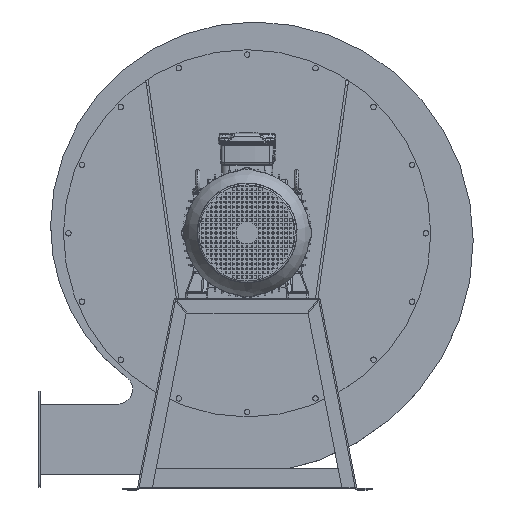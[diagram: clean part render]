
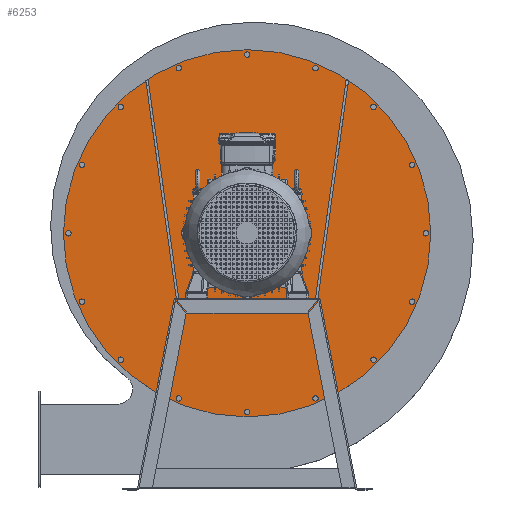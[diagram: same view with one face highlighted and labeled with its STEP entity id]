
A CAD part, top view. The second image highlights one B-rep face of the part: STEP entity #6253.
In plain terms, the highlighted planar face has unit normal (0, 0, 1).
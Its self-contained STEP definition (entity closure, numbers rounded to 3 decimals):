
#5695=CARTESIAN_POINT('',(-413.494,1633.453,4.0));
#5696=VERTEX_POINT('',#5695);
#5697=CARTESIAN_POINT('',(-453.494,1633.453,4.0));
#5698=DIRECTION('',(0.0,0.0,-1.0));
#5699=DIRECTION('',(-1.0,0.0,0.0));
#5700=AXIS2_PLACEMENT_3D('',#5697,#5698,#5699);
#5701=CIRCLE('',#5700,40.0);
#5702=EDGE_CURVE('',#5696,#5696,#5701,.T.);
#5723=CARTESIAN_POINT('',(-192.022,1889.425,4.0));
#5724=VERTEX_POINT('',#5723);
#5725=CARTESIAN_POINT('',(-197.522,1889.425,4.0));
#5726=DIRECTION('',(0.0,0.0,-1.0));
#5727=DIRECTION('',(-1.0,0.0,0.0));
#5728=AXIS2_PLACEMENT_3D('',#5725,#5726,#5727);
#5729=CIRCLE('',#5728,5.5);
#5730=EDGE_CURVE('',#5724,#5724,#5729,.T.);
#5751=CARTESIAN_POINT('',(-85.994,1633.453,4.0));
#5752=VERTEX_POINT('',#5751);
#5753=CARTESIAN_POINT('',(-91.494,1633.453,4.0));
#5754=DIRECTION('',(0.0,0.0,-1.0));
#5755=DIRECTION('',(-1.0,0.0,0.0));
#5756=AXIS2_PLACEMENT_3D('',#5753,#5754,#5755);
#5757=CIRCLE('',#5756,5.5);
#5758=EDGE_CURVE('',#5752,#5752,#5757,.T.);
#5779=CARTESIAN_POINT('',(-192.022,1377.48,4.0));
#5780=VERTEX_POINT('',#5779);
#5781=CARTESIAN_POINT('',(-197.522,1377.48,4.0));
#5782=DIRECTION('',(0.0,0.0,-1.0));
#5783=DIRECTION('',(-1.0,0.0,0.0));
#5784=AXIS2_PLACEMENT_3D('',#5781,#5782,#5783);
#5785=CIRCLE('',#5784,5.5);
#5786=EDGE_CURVE('',#5780,#5780,#5785,.T.);
#5807=CARTESIAN_POINT('',(-447.994,1271.453,4.0));
#5808=VERTEX_POINT('',#5807);
#5809=CARTESIAN_POINT('',(-453.494,1271.453,4.0));
#5810=DIRECTION('',(0.0,0.0,-1.0));
#5811=DIRECTION('',(-1.0,0.0,0.0));
#5812=AXIS2_PLACEMENT_3D('',#5809,#5810,#5811);
#5813=CIRCLE('',#5812,5.5);
#5814=EDGE_CURVE('',#5808,#5808,#5813,.T.);
#5835=CARTESIAN_POINT('',(-703.967,1377.48,4.0));
#5836=VERTEX_POINT('',#5835);
#5837=CARTESIAN_POINT('',(-709.467,1377.48,4.0));
#5838=DIRECTION('',(0.0,0.0,-1.0));
#5839=DIRECTION('',(-1.0,0.0,0.0));
#5840=AXIS2_PLACEMENT_3D('',#5837,#5838,#5839);
#5841=CIRCLE('',#5840,5.5);
#5842=EDGE_CURVE('',#5836,#5836,#5841,.T.);
#5863=CARTESIAN_POINT('',(-809.994,1633.453,4.0));
#5864=VERTEX_POINT('',#5863);
#5865=CARTESIAN_POINT('',(-815.494,1633.453,4.0));
#5866=DIRECTION('',(0.0,0.0,-1.0));
#5867=DIRECTION('',(-1.0,0.0,0.0));
#5868=AXIS2_PLACEMENT_3D('',#5865,#5866,#5867);
#5869=CIRCLE('',#5868,5.5);
#5870=EDGE_CURVE('',#5864,#5864,#5869,.T.);
#5891=CARTESIAN_POINT('',(-703.967,1889.425,4.0));
#5892=VERTEX_POINT('',#5891);
#5893=CARTESIAN_POINT('',(-709.467,1889.425,4.0));
#5894=DIRECTION('',(0.0,0.0,-1.0));
#5895=DIRECTION('',(-1.0,0.0,0.0));
#5896=AXIS2_PLACEMENT_3D('',#5893,#5894,#5895);
#5897=CIRCLE('',#5896,5.5);
#5898=EDGE_CURVE('',#5892,#5892,#5897,.T.);
#5919=CARTESIAN_POINT('',(-447.994,1995.453,4.0));
#5920=VERTEX_POINT('',#5919);
#5921=CARTESIAN_POINT('',(-453.494,1995.453,4.0));
#5922=DIRECTION('',(0.0,0.0,-1.0));
#5923=DIRECTION('',(-1.0,0.0,0.0));
#5924=AXIS2_PLACEMENT_3D('',#5921,#5922,#5923);
#5925=CIRCLE('',#5924,5.5);
#5926=EDGE_CURVE('',#5920,#5920,#5925,.T.);
#5947=CARTESIAN_POINT('',(-113.55,1771.984,4.0));
#5948=VERTEX_POINT('',#5947);
#5949=CARTESIAN_POINT('',(-119.05,1771.984,4.0));
#5950=DIRECTION('',(0.0,0.0,-1.0));
#5951=DIRECTION('',(-1.0,0.0,0.0));
#5952=AXIS2_PLACEMENT_3D('',#5949,#5950,#5951);
#5953=CIRCLE('',#5952,5.5);
#5954=EDGE_CURVE('',#5948,#5948,#5953,.T.);
#5975=CARTESIAN_POINT('',(-309.463,1967.897,4.0));
#5976=VERTEX_POINT('',#5975);
#5977=CARTESIAN_POINT('',(-314.963,1967.897,4.0));
#5978=DIRECTION('',(0.0,0.0,-1.0));
#5979=DIRECTION('',(-1.0,0.0,0.0));
#5980=AXIS2_PLACEMENT_3D('',#5977,#5978,#5979);
#5981=CIRCLE('',#5980,5.5);
#5982=EDGE_CURVE('',#5976,#5976,#5981,.T.);
#6003=CARTESIAN_POINT('',(-586.526,1967.897,4.0));
#6004=VERTEX_POINT('',#6003);
#6005=CARTESIAN_POINT('',(-592.026,1967.897,4.0));
#6006=DIRECTION('',(0.0,0.0,-1.0));
#6007=DIRECTION('',(-1.0,0.0,0.0));
#6008=AXIS2_PLACEMENT_3D('',#6005,#6006,#6007);
#6009=CIRCLE('',#6008,5.5);
#6010=EDGE_CURVE('',#6004,#6004,#6009,.T.);
#6031=CARTESIAN_POINT('',(-782.439,1771.984,4.0));
#6032=VERTEX_POINT('',#6031);
#6033=CARTESIAN_POINT('',(-787.939,1771.984,4.0));
#6034=DIRECTION('',(0.0,0.0,-1.0));
#6035=DIRECTION('',(-1.0,0.0,0.0));
#6036=AXIS2_PLACEMENT_3D('',#6033,#6034,#6035);
#6037=CIRCLE('',#6036,5.5);
#6038=EDGE_CURVE('',#6032,#6032,#6037,.T.);
#6059=CARTESIAN_POINT('',(-782.439,1494.921,4.0));
#6060=VERTEX_POINT('',#6059);
#6061=CARTESIAN_POINT('',(-787.939,1494.921,4.0));
#6062=DIRECTION('',(0.0,0.0,-1.0));
#6063=DIRECTION('',(-1.0,0.0,0.0));
#6064=AXIS2_PLACEMENT_3D('',#6061,#6062,#6063);
#6065=CIRCLE('',#6064,5.5);
#6066=EDGE_CURVE('',#6060,#6060,#6065,.T.);
#6087=CARTESIAN_POINT('',(-586.526,1299.008,4.0));
#6088=VERTEX_POINT('',#6087);
#6089=CARTESIAN_POINT('',(-592.026,1299.008,4.0));
#6090=DIRECTION('',(0.0,0.0,-1.0));
#6091=DIRECTION('',(-1.0,0.0,0.0));
#6092=AXIS2_PLACEMENT_3D('',#6089,#6090,#6091);
#6093=CIRCLE('',#6092,5.5);
#6094=EDGE_CURVE('',#6088,#6088,#6093,.T.);
#6115=CARTESIAN_POINT('',(-309.463,1299.008,4.0));
#6116=VERTEX_POINT('',#6115);
#6117=CARTESIAN_POINT('',(-314.963,1299.008,4.0));
#6118=DIRECTION('',(0.0,0.0,-1.0));
#6119=DIRECTION('',(-1.0,0.0,0.0));
#6120=AXIS2_PLACEMENT_3D('',#6117,#6118,#6119);
#6121=CIRCLE('',#6120,5.5);
#6122=EDGE_CURVE('',#6116,#6116,#6121,.T.);
#6143=CARTESIAN_POINT('',(-113.55,1494.921,4.0));
#6144=VERTEX_POINT('',#6143);
#6145=CARTESIAN_POINT('',(-119.05,1494.921,4.0));
#6146=DIRECTION('',(0.0,0.0,-1.0));
#6147=DIRECTION('',(-1.0,0.0,0.0));
#6148=AXIS2_PLACEMENT_3D('',#6145,#6146,#6147);
#6149=CIRCLE('',#6148,5.5);
#6150=EDGE_CURVE('',#6144,#6144,#6149,.T.);
#6171=CARTESIAN_POINT('',(-81.494,1633.453,4.0));
#6172=VERTEX_POINT('',#6171);
#6173=CARTESIAN_POINT('',(-453.494,1633.453,4.0));
#6174=DIRECTION('',(0.0,0.0,-1.0));
#6175=DIRECTION('',(-1.0,0.0,0.0));
#6176=AXIS2_PLACEMENT_3D('',#6173,#6174,#6175);
#6177=CIRCLE('',#6176,372.);
#6178=EDGE_CURVE('',#6172,#6172,#6177,.T.);
#6194=CARTESIAN_POINT('',(-453.494,1633.453,4.0));
#6195=DIRECTION('',(0.0,0.0,-1.0));
#6196=DIRECTION('',(-1.0,0.0,0.0));
#6197=AXIS2_PLACEMENT_3D('',#6194,#6195,#6196);
#6198=PLANE('',#6197);
#6199=ORIENTED_EDGE('',*,*,#6178,.F.);
#6200=EDGE_LOOP('',(#6199));
#6201=FACE_OUTER_BOUND('',#6200,.T.);
#6202=ORIENTED_EDGE('',*,*,#5702,.T.);
#6203=EDGE_LOOP('',(#6202));
#6204=FACE_BOUND('',#6203,.T.);
#6205=ORIENTED_EDGE('',*,*,#5730,.T.);
#6206=EDGE_LOOP('',(#6205));
#6207=FACE_BOUND('',#6206,.T.);
#6208=ORIENTED_EDGE('',*,*,#5758,.T.);
#6209=EDGE_LOOP('',(#6208));
#6210=FACE_BOUND('',#6209,.T.);
#6211=ORIENTED_EDGE('',*,*,#5786,.T.);
#6212=EDGE_LOOP('',(#6211));
#6213=FACE_BOUND('',#6212,.T.);
#6214=ORIENTED_EDGE('',*,*,#5814,.T.);
#6215=EDGE_LOOP('',(#6214));
#6216=FACE_BOUND('',#6215,.T.);
#6217=ORIENTED_EDGE('',*,*,#5842,.T.);
#6218=EDGE_LOOP('',(#6217));
#6219=FACE_BOUND('',#6218,.T.);
#6220=ORIENTED_EDGE('',*,*,#5870,.T.);
#6221=EDGE_LOOP('',(#6220));
#6222=FACE_BOUND('',#6221,.T.);
#6223=ORIENTED_EDGE('',*,*,#5898,.T.);
#6224=EDGE_LOOP('',(#6223));
#6225=FACE_BOUND('',#6224,.T.);
#6226=ORIENTED_EDGE('',*,*,#5926,.T.);
#6227=EDGE_LOOP('',(#6226));
#6228=FACE_BOUND('',#6227,.T.);
#6229=ORIENTED_EDGE('',*,*,#5954,.T.);
#6230=EDGE_LOOP('',(#6229));
#6231=FACE_BOUND('',#6230,.T.);
#6232=ORIENTED_EDGE('',*,*,#5982,.T.);
#6233=EDGE_LOOP('',(#6232));
#6234=FACE_BOUND('',#6233,.T.);
#6235=ORIENTED_EDGE('',*,*,#6010,.T.);
#6236=EDGE_LOOP('',(#6235));
#6237=FACE_BOUND('',#6236,.T.);
#6238=ORIENTED_EDGE('',*,*,#6038,.T.);
#6239=EDGE_LOOP('',(#6238));
#6240=FACE_BOUND('',#6239,.T.);
#6241=ORIENTED_EDGE('',*,*,#6066,.T.);
#6242=EDGE_LOOP('',(#6241));
#6243=FACE_BOUND('',#6242,.T.);
#6244=ORIENTED_EDGE('',*,*,#6094,.T.);
#6245=EDGE_LOOP('',(#6244));
#6246=FACE_BOUND('',#6245,.T.);
#6247=ORIENTED_EDGE('',*,*,#6122,.T.);
#6248=EDGE_LOOP('',(#6247));
#6249=FACE_BOUND('',#6248,.T.);
#6250=ORIENTED_EDGE('',*,*,#6150,.T.);
#6251=EDGE_LOOP('',(#6250));
#6252=FACE_BOUND('',#6251,.T.);
#6253=ADVANCED_FACE('',(#6201,#6204,#6207,#6210,#6213,#6216,#6219,#6222,#6225,#6228,#6231,#6234,#6237,#6240,#6243,#6246,#6249,#6252),#6198,.F.);
